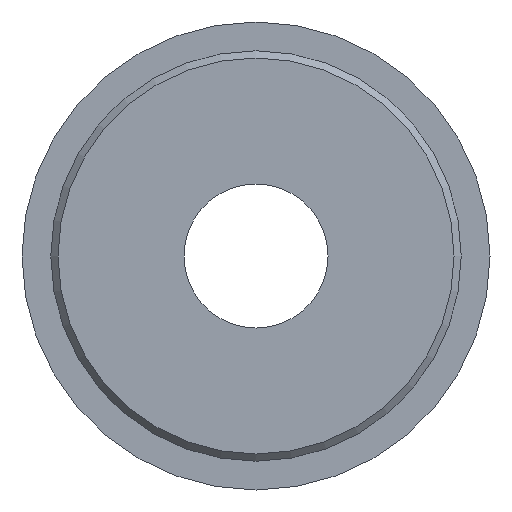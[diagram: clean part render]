
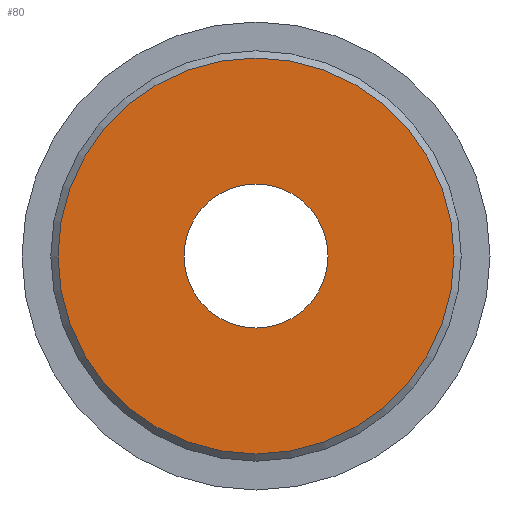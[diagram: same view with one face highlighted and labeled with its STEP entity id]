
A CAD part, front view. The second image highlights one B-rep face of the part: STEP entity #80.
In plain terms, the highlighted planar face has unit normal (0, -1, 0).
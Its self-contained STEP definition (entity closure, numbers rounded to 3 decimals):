
#80 = ADVANCED_FACE( '', ( #102, #103 ), #104, .T. );
#102 = FACE_OUTER_BOUND( '', #135, .T. );
#103 = FACE_BOUND( '', #136, .T. );
#104 = PLANE( '', #137 );
#135 = EDGE_LOOP( '', ( #178 ) );
#136 = EDGE_LOOP( '', ( #179 ) );
#137 = AXIS2_PLACEMENT_3D( '', #180, #181, #182 );
#178 = ORIENTED_EDGE( '', *, *, #214, .T. );
#179 = ORIENTED_EDGE( '', *, *, #213, .F. );
#180 = CARTESIAN_POINT( '', ( 4., 0., 0. ) );
#181 = DIRECTION( '', ( 0., -1., 0. ) );
#182 = DIRECTION( '', ( 0., 0., -1. ) );
#213 = EDGE_CURVE( '', #229, #229, #230, .T. );
#214 = EDGE_CURVE( '', #231, #231, #232, .T. );
#229 = VERTEX_POINT( '', #251 );
#230 = CIRCLE( '', #252, 4. );
#231 = VERTEX_POINT( '', #253 );
#232 = CIRCLE( '', #254, 11. );
#251 = CARTESIAN_POINT( '', ( 0., 0., -4. ) );
#252 = AXIS2_PLACEMENT_3D( '', #278, #279, #280 );
#253 = CARTESIAN_POINT( '', ( 0., 0., -11. ) );
#254 = AXIS2_PLACEMENT_3D( '', #281, #282, #283 );
#278 = CARTESIAN_POINT( '', ( 0., 0., 0. ) );
#279 = DIRECTION( '', ( 0., -1., 0. ) );
#280 = DIRECTION( '', ( 0., 0., -1. ) );
#281 = CARTESIAN_POINT( '', ( 0., 0., 0. ) );
#282 = DIRECTION( '', ( 0., -1., 0. ) );
#283 = DIRECTION( '', ( 0., 0., -1. ) );
